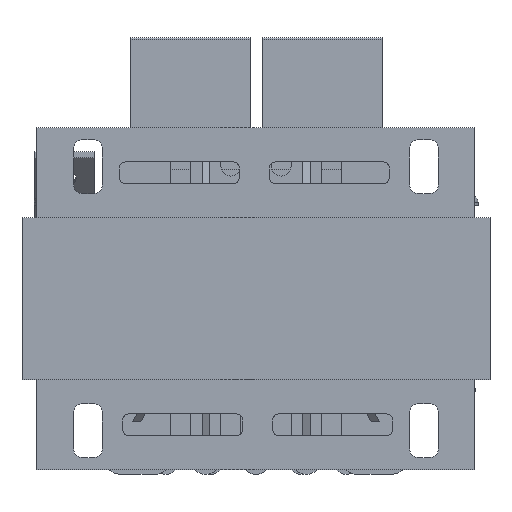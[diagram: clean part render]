
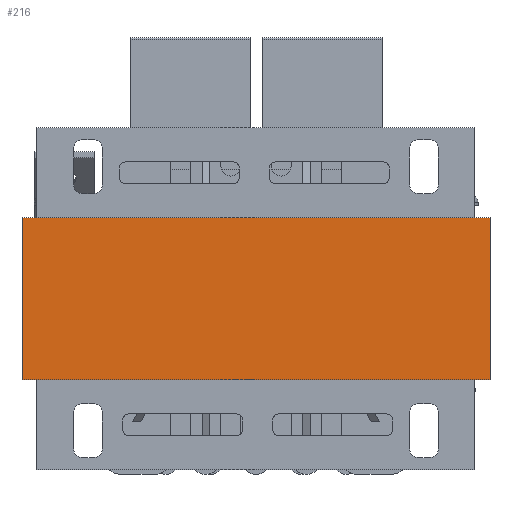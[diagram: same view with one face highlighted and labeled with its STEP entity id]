
A CAD part, front view. The second image highlights one B-rep face of the part: STEP entity #216.
In plain terms, the highlighted planar face has unit normal (0, -1, 0).
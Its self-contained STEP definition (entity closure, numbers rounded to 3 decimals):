
#100 = EDGE_CURVE('',#101,#103,#105,.T.);
#101 = VERTEX_POINT('',#102);
#102 = CARTESIAN_POINT('',(0.,0.,0.));
#103 = VERTEX_POINT('',#104);
#104 = CARTESIAN_POINT('',(0.,0.,27.));
#105 = SURFACE_CURVE('',#106,(#110,#122),.PCURVE_S1.);
#106 = LINE('',#107,#108);
#107 = CARTESIAN_POINT('',(0.,0.,0.));
#108 = VECTOR('',#109,1.);
#109 = DIRECTION('',(0.,0.,1.));
#110 = PCURVE('',#111,#116);
#111 = PLANE('',#112);
#112 = AXIS2_PLACEMENT_3D('',#113,#114,#115);
#113 = CARTESIAN_POINT('',(0.,0.,0.));
#114 = DIRECTION('',(1.,0.,0.));
#115 = DIRECTION('',(0.,0.,1.));
#116 = DEFINITIONAL_REPRESENTATION('',(#117),#121);
#117 = LINE('',#118,#119);
#118 = CARTESIAN_POINT('',(0.,0.));
#119 = VECTOR('',#120,1.);
#120 = DIRECTION('',(1.,0.));
#121 = ( GEOMETRIC_REPRESENTATION_CONTEXT(2) 
PARAMETRIC_REPRESENTATION_CONTEXT() REPRESENTATION_CONTEXT('2D SPACE',''
  ) );
#122 = PCURVE('',#123,#128);
#123 = PLANE('',#124);
#124 = AXIS2_PLACEMENT_3D('',#125,#126,#127);
#125 = CARTESIAN_POINT('',(0.,0.,0.));
#126 = DIRECTION('',(0.,1.,0.));
#127 = DIRECTION('',(0.,0.,1.));
#128 = DEFINITIONAL_REPRESENTATION('',(#129),#133);
#129 = LINE('',#130,#131);
#130 = CARTESIAN_POINT('',(0.,0.));
#131 = VECTOR('',#132,1.);
#132 = DIRECTION('',(1.,0.));
#133 = ( GEOMETRIC_REPRESENTATION_CONTEXT(2) 
PARAMETRIC_REPRESENTATION_CONTEXT() REPRESENTATION_CONTEXT('2D SPACE',''
  ) );
#151 = PLANE('',#152);
#152 = AXIS2_PLACEMENT_3D('',#153,#154,#155);
#153 = CARTESIAN_POINT('',(0.,0.,0.));
#154 = DIRECTION('',(0.,0.,1.));
#155 = DIRECTION('',(1.,0.,0.));
#205 = PLANE('',#206);
#206 = AXIS2_PLACEMENT_3D('',#207,#208,#209);
#207 = CARTESIAN_POINT('',(0.,0.,27.));
#208 = DIRECTION('',(0.,0.,1.));
#209 = DIRECTION('',(1.,0.,0.));
#216 = ADVANCED_FACE('',(#217),#123,.F.);
#217 = FACE_BOUND('',#218,.F.);
#218 = EDGE_LOOP('',(#219,#242,#243,#266));
#219 = ORIENTED_EDGE('',*,*,#220,.F.);
#220 = EDGE_CURVE('',#101,#221,#223,.T.);
#221 = VERTEX_POINT('',#222);
#222 = CARTESIAN_POINT('',(78.,0.,0.));
#223 = SURFACE_CURVE('',#224,(#228,#235),.PCURVE_S1.);
#224 = LINE('',#225,#226);
#225 = CARTESIAN_POINT('',(0.,0.,0.));
#226 = VECTOR('',#227,1.);
#227 = DIRECTION('',(1.,0.,0.));
#228 = PCURVE('',#123,#229);
#229 = DEFINITIONAL_REPRESENTATION('',(#230),#234);
#230 = LINE('',#231,#232);
#231 = CARTESIAN_POINT('',(0.,0.));
#232 = VECTOR('',#233,1.);
#233 = DIRECTION('',(0.,1.));
#234 = ( GEOMETRIC_REPRESENTATION_CONTEXT(2) 
PARAMETRIC_REPRESENTATION_CONTEXT() REPRESENTATION_CONTEXT('2D SPACE',''
  ) );
#235 = PCURVE('',#151,#236);
#236 = DEFINITIONAL_REPRESENTATION('',(#237),#241);
#237 = LINE('',#238,#239);
#238 = CARTESIAN_POINT('',(0.,0.));
#239 = VECTOR('',#240,1.);
#240 = DIRECTION('',(1.,0.));
#241 = ( GEOMETRIC_REPRESENTATION_CONTEXT(2) 
PARAMETRIC_REPRESENTATION_CONTEXT() REPRESENTATION_CONTEXT('2D SPACE',''
  ) );
#242 = ORIENTED_EDGE('',*,*,#100,.T.);
#243 = ORIENTED_EDGE('',*,*,#244,.T.);
#244 = EDGE_CURVE('',#103,#245,#247,.T.);
#245 = VERTEX_POINT('',#246);
#246 = CARTESIAN_POINT('',(78.,0.,27.));
#247 = SURFACE_CURVE('',#248,(#252,#259),.PCURVE_S1.);
#248 = LINE('',#249,#250);
#249 = CARTESIAN_POINT('',(0.,0.,27.));
#250 = VECTOR('',#251,1.);
#251 = DIRECTION('',(1.,0.,0.));
#252 = PCURVE('',#123,#253);
#253 = DEFINITIONAL_REPRESENTATION('',(#254),#258);
#254 = LINE('',#255,#256);
#255 = CARTESIAN_POINT('',(27.,0.));
#256 = VECTOR('',#257,1.);
#257 = DIRECTION('',(0.,1.));
#258 = ( GEOMETRIC_REPRESENTATION_CONTEXT(2) 
PARAMETRIC_REPRESENTATION_CONTEXT() REPRESENTATION_CONTEXT('2D SPACE',''
  ) );
#259 = PCURVE('',#205,#260);
#260 = DEFINITIONAL_REPRESENTATION('',(#261),#265);
#261 = LINE('',#262,#263);
#262 = CARTESIAN_POINT('',(0.,0.));
#263 = VECTOR('',#264,1.);
#264 = DIRECTION('',(1.,0.));
#265 = ( GEOMETRIC_REPRESENTATION_CONTEXT(2) 
PARAMETRIC_REPRESENTATION_CONTEXT() REPRESENTATION_CONTEXT('2D SPACE',''
  ) );
#266 = ORIENTED_EDGE('',*,*,#267,.F.);
#267 = EDGE_CURVE('',#221,#245,#268,.T.);
#268 = SURFACE_CURVE('',#269,(#273,#280),.PCURVE_S1.);
#269 = LINE('',#270,#271);
#270 = CARTESIAN_POINT('',(78.,0.,0.));
#271 = VECTOR('',#272,1.);
#272 = DIRECTION('',(0.,0.,1.));
#273 = PCURVE('',#123,#274);
#274 = DEFINITIONAL_REPRESENTATION('',(#275),#279);
#275 = LINE('',#276,#277);
#276 = CARTESIAN_POINT('',(0.,78.));
#277 = VECTOR('',#278,1.);
#278 = DIRECTION('',(1.,0.));
#279 = ( GEOMETRIC_REPRESENTATION_CONTEXT(2) 
PARAMETRIC_REPRESENTATION_CONTEXT() REPRESENTATION_CONTEXT('2D SPACE',''
  ) );
#280 = PCURVE('',#281,#286);
#281 = PLANE('',#282);
#282 = AXIS2_PLACEMENT_3D('',#283,#284,#285);
#283 = CARTESIAN_POINT('',(78.,0.,0.));
#284 = DIRECTION('',(1.,0.,0.));
#285 = DIRECTION('',(0.,0.,1.));
#286 = DEFINITIONAL_REPRESENTATION('',(#287),#291);
#287 = LINE('',#288,#289);
#288 = CARTESIAN_POINT('',(0.,0.));
#289 = VECTOR('',#290,1.);
#290 = DIRECTION('',(1.,0.));
#291 = ( GEOMETRIC_REPRESENTATION_CONTEXT(2) 
PARAMETRIC_REPRESENTATION_CONTEXT() REPRESENTATION_CONTEXT('2D SPACE',''
  ) );
